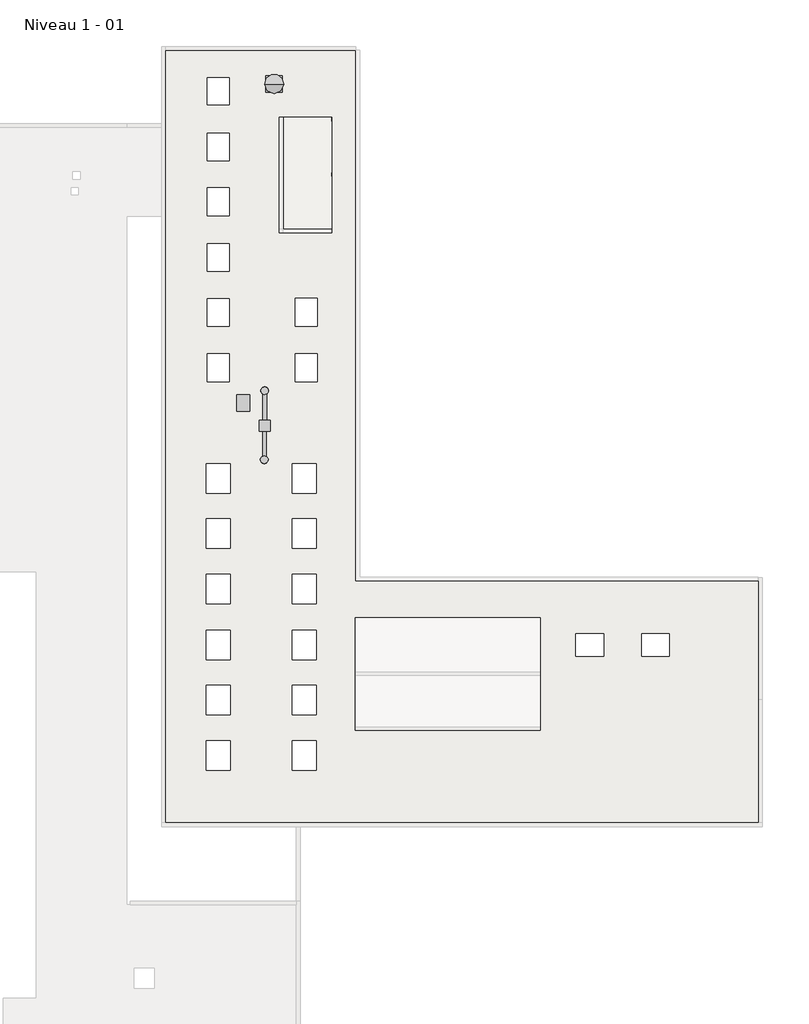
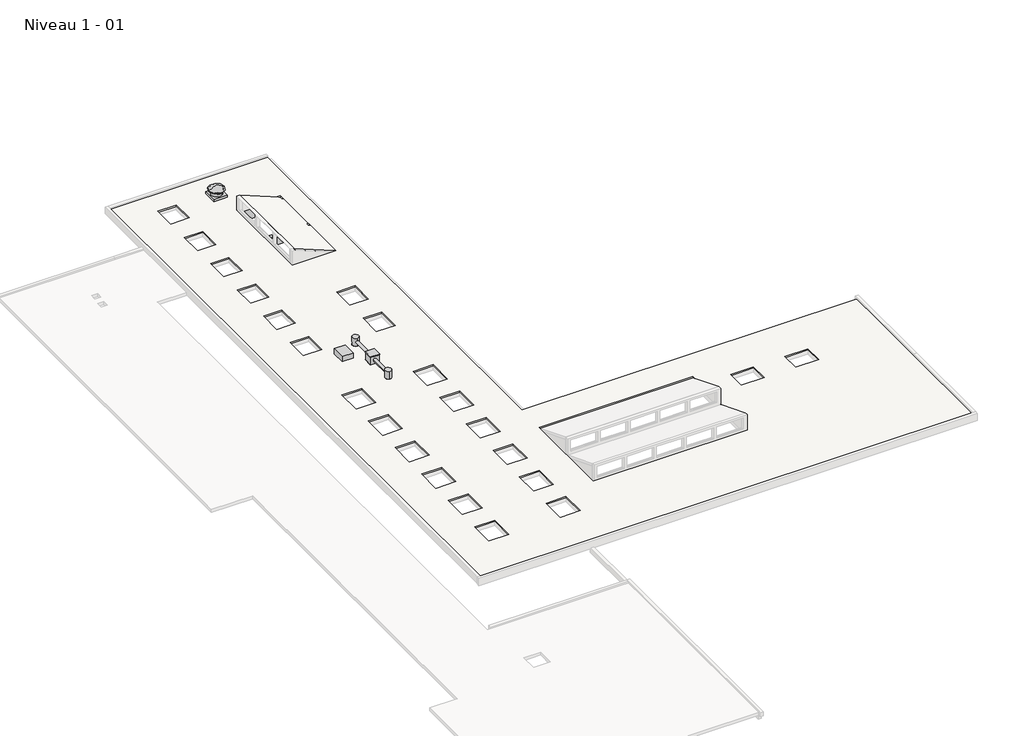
# One storey, part 3 of 3: 9 beams, 2 proxies, 2 slabs.
"""IFC4 building model written with IfcOpenShell, lengths in millimetres."""

from ifc_helpers import new_model, si_unit, frame, origin, place, context, project, spatial, polyline, circle_curve, outline, extrude, faceted_brep, transform, mapped, element, save
from ifc_brep_helpers import plane_surface, revolved_surface, advanced_brep
from components import conduit_gaz6_79e76099, tube_de_toiture3_tube_de_toiture_959dfdbf

model = new_model("IFC4")

# Units and contexts
model_context = context("Model", 3, world=origin())
ifc_project = project(units=[si_unit("LENGTHUNIT", "METRE", prefix="MILLI")], contexts=[model_context])

# Site, building, storey
site = spatial("IfcSite", under=ifc_project)
building = spatial("IfcBuilding", under=site)
storey = spatial("IfcBuildingStorey", under=building, Name="Niveau 1 - 01", Elevation=3953.3082742)

# Beams
placement = place(None, origin())
element("IfcBeam", 1, ObjectType="M_Béton-Poutre rectangulaire T2 : 20x60h", at=placement, inside=storey, context=model_context, shape_type="SweptSolid", body=[
    extrude(outline(polyline([(3353.3082742, -35918.9891752), (3353.3082742, -6831.0863322), (3703.3082742, -6831.0863322), (3703.3082742, -15997.6697002), (3953.3082742, -15997.6697002), (3953.3082742, -25593.9891728), (3703.3082742, -25593.9891728), (3703.3082742, -35918.9891752), (3353.3082742, -35918.9891752)])), frame((0.0, -26203.571453, 0.0), z_axis=(0.0, 1.0, 0.0), x_axis=(0.0, 0.0, 1.0)), (0.0, 0.0, 1.0), 200.0),
])
element("IfcBeam", 2, ObjectType="M_Béton-Poutre rectangulaire T2 : 20x60h", at=placement, inside=storey, context=model_context, shape_type="Brep", body=[
    faceted_brep([(-9997.5797303, -29287.792702, 3353.3082742), (-9997.5797303, -29087.792702, 3353.3082742), (-9997.5797303, -29087.792702, 3703.3082742), (-9997.5797303, -29287.792702, 3703.3082742), (-35918.9891751, -29087.792702, 3353.3082742), (-35918.9891751, -29287.792702, 3353.3082742), (-35918.9891751, -29287.792702, 3703.3082742), (-35918.9891751, -29087.792702, 3703.3082742), (-15997.6697002, -29087.792702, 3953.3082742), (-25593.9891728, -29087.792702, 3953.3082742), (-25593.9891728, -29088.571453, 3953.3082742), (-15997.6697002, -29088.571453, 3953.3082742), (-25593.9891728, -29087.792702, 3703.3082742), (-15997.6697002, -29087.792702, 3703.3082742), (-15997.6697002, -29088.571453, 3703.3082742), (-25593.9891728, -29088.571453, 3703.3082742)], [[[0, 1, 2, 3]], [[4, 5, 6, 7]], [[8, 9, 10, 11]], [[5, 0, 3, 6]], [[1, 0, 5, 4]], [[1, 4, 7, 12, 9, 8, 13, 2]], [[14, 15, 12, 7, 6, 3, 2, 13]], [[11, 14, 13, 8]], [[15, 10, 9, 12]], [[15, 14, 11, 10]]]),
])
element("IfcBeam", 3, ObjectType="M_Béton-Poutre rectangulaire T2 : 20x60h", at=placement, inside=storey, context=model_context, shape_type="SweptSolid", body=[
    extrude(outline(polyline([(-9997.5797303, -32028.571453), (-9997.5797303, -32228.571453), (-35918.989175, -32228.571453), (-35918.989175, -32028.571453), (-9997.5797303, -32028.571453)])), frame((0.0, 0.0, 3353.3082742), z_axis=(0.0, 0.0, 1.0), x_axis=(1.0, 0.0, 0.0)), (0.0, 0.0, 1.0), 350.0),
])
element("IfcBeam", 4, ObjectType="M_Béton-Poutre rectangulaire T2 : 20x65h", at=placement, inside=storey, context=model_context, shape_type="SweptSolid", body=[
    extrude(outline(polyline([(-6831.0863322, -23008.571453), (-6831.0863322, -23208.571453), (-35918.9891752, -23208.571453), (-35918.9891752, -23008.571453), (-6831.0863322, -23008.571453)])), frame((0.0, 0.0, 3303.3082742), z_axis=(0.0, 0.0, 1.0), x_axis=(1.0, 0.0, 0.0)), (0.0, 0.0, 1.0), 400.0),
])
element("IfcBeam", 5, ObjectType="M_Béton-Poutre rectangulaire T2 : 20x65h", at=placement, inside=storey, context=model_context, shape_type="SweptSolid", body=[
    extrude(outline(polyline([(-25843.9891729, -20008.571453), (-25843.9891729, -20208.571453), (-35918.9891752, -20208.571453), (-35918.9891752, -20008.571453), (-25843.9891729, -20008.571453)])), frame((0.0, 0.0, 3303.3082742), z_axis=(0.0, 0.0, 1.0), x_axis=(1.0, 0.0, 0.0)), (0.0, 0.0, 1.0), 400.0),
])
element("IfcBeam", 6, ObjectType="M_Béton-Poutre rectangulaire T2 : 20x65h", at=placement, inside=storey, context=model_context, shape_type="SweptSolid", body=[
    extrude(outline(polyline([(-25843.9891729, -17003.571453), (-25843.9891729, -17203.571453), (-35918.9891752, -17203.571453), (-35918.9891752, -17003.571453), (-25843.9891729, -17003.571453)])), frame((0.0, 0.0, 3303.3082742), z_axis=(0.0, 0.0, 1.0), x_axis=(1.0, 0.0, 0.0)), (0.0, 0.0, 1.0), 400.0),
])
element("IfcBeam", 7, ObjectType="M_Béton-Poutre rectangulaire T2 : 20x65h", at=placement, inside=storey, context=model_context, shape_type="Brep", body=[
    faceted_brep([(-25843.9891729, -2292.822974, 3303.3082742), (-25843.9891729, -2092.822974, 3303.3082742), (-25843.9891729, -2092.822974, 3703.3082742), (-25843.9891729, -2292.822974, 3703.3082742), (-35918.9891752, -2092.822974, 3303.3082742), (-35918.9891752, -2292.822974, 3303.3082742), (-35918.9891752, -2292.822974, 3703.3082742), (-35918.9891752, -2092.822974, 3703.3082742), (-29743.5797272, -2092.822974, 3703.3082742), (-26893.5797272, -2092.822974, 3703.3082742)], [[[0, 1, 2, 3]], [[4, 5, 6, 7]], [[5, 0, 3, 6]], [[1, 0, 5, 4]], [[1, 4, 7, 8, 9, 2]], [[3, 2, 9, 8, 7, 6]]]),
])
element("IfcBeam", 8, ObjectType="M_Béton-Poutre rectangulaire T2 : 20x65h", at=placement, inside=storey, context=model_context, shape_type="SweptSolid", body=[
    extrude(outline(polyline([(3303.3082742, -35918.9891752), (3303.3082742, -25843.9891729), (3703.3082742, -25843.9891729), (3703.3082742, -26893.5797272), (3953.3082742, -26893.5797272), (3953.3082742, -29743.5797272), (3703.3082742, -29743.5797272), (3703.3082742, -35918.9891752), (3303.3082742, -35918.9891752)])), frame((0.0, 777.177026, 0.0), z_axis=(0.0, 1.0, 0.0), x_axis=(0.0, 0.0, 1.0)), (0.0, 0.0, 1.0), 200.0),
])
element("IfcBeam", 9, ObjectType="M_Béton-Poutre rectangulaire T2 : 30x65h", at=placement, inside=storey, context=model_context, shape_type="Brep", body=[
    faceted_brep([(-25843.9891729, 3777.177026, 3303.3082742), (-25843.9891729, 4077.177026, 3303.3082742), (-25843.9891729, 4077.177026, 3703.3082742), (-25843.9891729, 3777.177026, 3703.3082742), (-35918.9891752, 4077.177026, 3303.3082742), (-35918.9891752, 3777.177026, 3303.3082742), (-35918.9891752, 3777.177026, 3703.3082742), (-35918.9891752, 4077.177026, 3703.3082742), (-29743.5797272, 3777.177026, 3953.3082742), (-26893.5797272, 3777.177026, 3953.3082742), (-26893.5797272, 3782.177026, 3953.3082742), (-29743.5797272, 3782.177026, 3953.3082742), (-26893.5797272, 3777.177026, 3703.3082742), (-29743.5797272, 3777.177026, 3703.3082742), (-29743.5797272, 3782.177026, 3703.3082742), (-26893.5797272, 3782.177026, 3703.3082742)], [[[0, 1, 2, 3]], [[4, 5, 6, 7]], [[8, 9, 10, 11]], [[5, 0, 3, 12, 9, 8, 13, 6]], [[1, 0, 5, 4]], [[1, 4, 7, 2]], [[14, 15, 12, 3, 2, 7, 6, 13]], [[15, 14, 11, 10]], [[11, 14, 13, 8]], [[15, 10, 9, 12]]]),
])

# Proxies
conduit_gaz6_shape = conduit_gaz6_79e76099(model_context)
element("IfcBuildingElementProxy", 10, Name="Conduit Gaz6 : Conduit Gaz", ObjectType="Conduit Gaz6 : Conduit Gaz", at=placement, inside=storey, context=model_context, shape_type="MappedRepresentation", body=[
    mapped(conduit_gaz6_shape, transform((0.0, 0.0, 0.0), x_axis=(1.0, 0.0, 0.0), y_axis=(0.0, 1.0, 0.0), z_axis=(0.0, 0.0, 1.0))),
])
tube_de_toiture3_tube_de_toiture_shape = tube_de_toiture3_tube_de_toiture_959dfdbf(model_context)
element("IfcBuildingElementProxy", 11, Name="Tube de toiture3 : Tube de toiture", ObjectType="Tube de toiture3 : Tube de toiture", at=placement, inside=storey, context=model_context, shape_type="MappedRepresentation", body=[
    mapped(tube_de_toiture3_tube_de_toiture_shape, transform((0.0, 0.0, 0.0), x_axis=(1.0, 0.0, 0.0), y_axis=(0.0, 1.0, 0.0), z_axis=(0.0, 0.0, 1.0))),
])

# Slabs
element("IfcSlab", 12, ObjectType="étanchéité terrasse 100mm", at=placement, inside=storey, context=model_context, shape_type="AdvancedBrep", body=[
    advanced_brep(
    [(-25843.9891731, 7622.6789506, 3953.3082742), (-25843.9891731, -21206.25307, 3953.3082742), (-3963.9891777, -21206.25307, 3953.3082742), (-3945.9483345, -21206.25307, 3953.3082742), (-3945.9483345, -34309.054307, 3953.3082742), (-3952.669714, -34309.054307, 3953.3082742), (-36143.9891745, -34309.054307, 3953.3082742), (-36143.9891745, 7622.6789506, 3953.3082742), (-25843.9891731, -23168.571453, 3953.3082742), (-25843.9891731, -29288.571453, 3953.3082742), (-15797.6697002, -29288.571453, 3953.3082742), (-15797.6697002, -23578.2235942, 3953.3082742), (-15797.6697002, -23177.8035198, 3953.3082742), (-15797.6697002, -23168.571453, 3953.3082742), (-25793.9891728, -23168.571453, 3953.3082742), (-33869.0462334, 4671.7111666, 3953.3082742), (-32669.0462334, 4671.7111666, 3953.3082742), (-32669.0462334, 6121.7111666, 3953.3082742), (-33869.0462334, 6121.7111666, 3953.3082742), (-33869.0462334, 3122.177026, 3953.3082742), (-33869.0462334, 1622.177026, 3953.3082742), (-32669.0462334, 1622.177026, 3953.3082742), (-32669.0462334, 3122.177026, 3953.3082742), (-32669.0462334, -1347.3571147, 3953.3082742), (-32669.0462334, 152.6428853, 3953.3082742), (-33869.0462334, 152.6428853, 3953.3082742), (-33869.0462334, -1347.3571147, 3953.3082742), (-32669.0462334, -4376.8912553, 3953.3082742), (-32669.0462334, -2876.8912553, 3953.3082742), (-33869.0462334, -2876.8912553, 3953.3082742), (-33869.0462334, -4376.8912553, 3953.3082742), (-33869.0462334, -5852.822974, 3953.3082742), (-33869.0462334, -7352.822974, 3953.3082742), (-32669.0462334, -7352.822974, 3953.3082742), (-32669.0462334, -5852.822974, 3953.3082742), (-32669.0462334, -10357.822974, 3953.3082742), (-32669.0462334, -8857.822974, 3953.3082742), (-33869.0462334, -8857.822974, 3953.3082742), (-33869.0462334, -10357.822974, 3953.3082742), (-12351.5513349, -24053.822974, 3953.3082742), (-13851.5513349, -24053.822974, 3953.3082742), (-13851.5513349, -25253.822974, 3953.3082742), (-12351.5513349, -25253.822974, 3953.3082742), (-8792.5797272, -24053.822974, 3953.3082742), (-10292.5797272, -24053.822974, 3953.3082742), (-10292.5797272, -25253.822974, 3953.3082742), (-8792.5797272, -25253.822974, 3953.3082742), (-26893.5797272, 3982.177026, 3953.3082742), (-29943.5797272, 3982.177026, 3953.3082742), (-29943.5797272, -2292.822974, 3953.3082742), (-26893.5797272, -2292.822974, 3953.3082742), (-26893.5797272, -2092.822974, 3953.3082742), (-26893.5797272, 3782.177026, 3953.3082742), (-33919.0462334, -16407.822974, 3953.3082742), (-32619.0462334, -16407.822974, 3953.3082742), (-32619.0462334, -14807.822974, 3953.3082742), (-33919.0462334, -14807.822974, 3953.3082742), (-33919.0462334, -19407.822974, 3953.3082742), (-32619.0462334, -19407.822974, 3953.3082742), (-32619.0462334, -17807.822974, 3953.3082742), (-33919.0462334, -17807.822974, 3953.3082742), (-33919.0462334, -22427.822974, 3953.3082742), (-32619.0462334, -22427.822974, 3953.3082742), (-32619.0462334, -20827.822974, 3953.3082742), (-33919.0462334, -20827.822974, 3953.3082742), (-32619.0462334, -25447.822974, 3953.3082742), (-32619.0462334, -23847.822974, 3953.3082742), (-33919.0462334, -23847.822974, 3953.3082742), (-33919.0462334, -25447.822974, 3953.3082742), (-33919.0462334, -28437.822974, 3953.3082742), (-32619.0462334, -28437.822974, 3953.3082742), (-32619.0462334, -26837.822974, 3953.3082742), (-33919.0462334, -26837.822974, 3953.3082742), (-33919.0462334, -31447.822974, 3953.3082742), (-32619.0462334, -31447.822974, 3953.3082742), (-32619.0462334, -29847.822974, 3953.3082742), (-33919.0462334, -29847.822974, 3953.3082742), (-29260.9246741, -16407.822974, 3953.3082742), (-27960.9246741, -16407.822974, 3953.3082742), (-27960.9246741, -14807.822974, 3953.3082742), (-29260.9246741, -14807.822974, 3953.3082742), (-27960.9246741, -17807.822974, 3953.3082742), (-29260.9246741, -17807.822974, 3953.3082742), (-29260.9246741, -19407.822974, 3953.3082742), (-27960.9246741, -19407.822974, 3953.3082742), (-29260.9246741, -22427.822974, 3953.3082742), (-27960.9246741, -22427.822974, 3953.3082742), (-27960.9246741, -20827.822974, 3953.3082742), (-29260.9246741, -20827.822974, 3953.3082742), (-29260.9246741, -25447.822974, 3953.3082742), (-27960.9246741, -25447.822974, 3953.3082742), (-27960.9246741, -23847.822974, 3953.3082742), (-29260.9246741, -23847.822974, 3953.3082742), (-27960.9246741, -26837.822974, 3953.3082742), (-29260.9246741, -26837.822974, 3953.3082742), (-29260.9246741, -28437.822974, 3953.3082742), (-27960.9246741, -28437.822974, 3953.3082742), (-29260.9246741, -31447.822974, 3953.3082742), (-27960.9246741, -31447.822974, 3953.3082742), (-27960.9246741, -29847.822974, 3953.3082742), (-29260.9246741, -29847.822974, 3953.3082742), (-29098.4246741, -7360.322974, 3953.3082742), (-27883.4246741, -7360.322974, 3953.3082742), (-27883.4246741, -5845.322974, 3953.3082742), (-29098.4246741, -5845.322974, 3953.3082742), (-29098.4246741, -10365.322974, 3953.3082742), (-27883.4246741, -10365.322974, 3953.3082742), (-27883.4246741, -8850.322974, 3953.3082742), (-29098.4246741, -8850.322974, 3953.3082742), (-30507.5797272, 5770.177026, 3953.3082742), (-29907.5797272, 5770.177026, 3953.3082742), (-32268.9891696, -11074.5661034, 3953.3082742), (-32268.9891696, -11979.0543063, 3953.3082742), (-31556.3128908, -11979.0543063, 3953.3082742), (-31556.3128908, -11074.5661034, 3953.3082742), (-31036.1289842, -12447.5222495, 3953.3082742), (-31036.1289842, -13047.5222494, 3953.3082742), (-30446.1289842, -13047.5222494, 3953.3082742), (-30446.1289842, -12447.5222495, 3953.3082742), (-30958.5797272, -10853.822974, 3953.3082742), (-30538.5797272, -10853.822974, 3953.3082742), (-30977.5797272, -14595.822974, 3953.3082742), (-30557.5797272, -14595.822974, 3953.3082742), (-25843.9891731, -21206.25307, 4053.3082742), (-25843.9891731, 7622.6789506, 4053.3082742), (-36143.9891745, 7622.6789506, 4053.3082742), (-36143.9891745, -34309.054307, 4053.3082742), (-3945.9483345, -34309.054307, 4053.3082742), (-3945.9483345, -21206.25307, 4053.3082742), (-25843.9891731, -29288.571453, 4053.3082742), (-25843.9891731, -23168.571453, 4053.3082742), (-15797.6697002, -23168.571453, 4053.3082742), (-15797.6697002, -29288.571453, 4053.3082742), (-32669.0462334, 4671.7111666, 4053.3082742), (-33869.0462334, 4671.7111666, 4053.3082742), (-33869.0462334, 6121.7111666, 4053.3082742), (-32669.0462334, 6121.7111666, 4053.3082742), (-33869.0462334, 1622.177026, 4053.3082742), (-33869.0462334, 3122.177026, 4053.3082742), (-32669.0462334, 3122.177026, 4053.3082742), (-32669.0462334, 1622.177026, 4053.3082742), (-32669.0462334, 152.6428853, 4053.3082742), (-32669.0462334, -1347.3571147, 4053.3082742), (-33869.0462334, -1347.3571147, 4053.3082742), (-33869.0462334, 152.6428853, 4053.3082742), (-32669.0462334, -2876.8912553, 4053.3082742), (-32669.0462334, -4376.8912553, 4053.3082742), (-33869.0462334, -4376.8912553, 4053.3082742), (-33869.0462334, -2876.8912553, 4053.3082742), (-33869.0462334, -7352.822974, 4053.3082742), (-33869.0462334, -5852.822974, 4053.3082742), (-32669.0462334, -5852.822974, 4053.3082742), (-32669.0462334, -7352.822974, 4053.3082742), (-32669.0462334, -8857.822974, 4053.3082742), (-32669.0462334, -10357.822974, 4053.3082742), (-33869.0462334, -10357.822974, 4053.3082742), (-33869.0462334, -8857.822974, 4053.3082742), (-13851.5513349, -24053.822974, 4053.3082742), (-12351.5513349, -24053.822974, 4053.3082742), (-12351.5513349, -25253.822974, 4053.3082742), (-13851.5513349, -25253.822974, 4053.3082742), (-10292.5797272, -24053.822974, 4053.3082742), (-8792.5797272, -24053.822974, 4053.3082742), (-8792.5797272, -25253.822974, 4053.3082742), (-10292.5797272, -25253.822974, 4053.3082742), (-27100.3841855, -2292.822974, 4053.3082742), (-29943.5797272, -2292.822974, 4053.3082742), (-29943.5797272, 3982.177026, 4053.3082742), (-27100.3841855, 3982.177026, 4053.3082742), (-32619.0462334, -16407.822974, 4053.3082742), (-33919.0462334, -16407.822974, 4053.3082742), (-33919.0462334, -14807.822974, 4053.3082742), (-32619.0462334, -14807.822974, 4053.3082742), (-32619.0462334, -19407.822974, 4053.3082742), (-33919.0462334, -19407.822974, 4053.3082742), (-33919.0462334, -17807.822974, 4053.3082742), (-32619.0462334, -17807.822974, 4053.3082742), (-32619.0462334, -22427.822974, 4053.3082742), (-33919.0462334, -22427.822974, 4053.3082742), (-33919.0462334, -20827.822974, 4053.3082742), (-32619.0462334, -20827.822974, 4053.3082742), (-32619.0462334, -23847.822974, 4053.3082742), (-32619.0462334, -25447.822974, 4053.3082742), (-33919.0462334, -25447.822974, 4053.3082742), (-33919.0462334, -23847.822974, 4053.3082742), (-32619.0462334, -28437.822974, 4053.3082742), (-33919.0462334, -28437.822974, 4053.3082742), (-33919.0462334, -26837.822974, 4053.3082742), (-32619.0462334, -26837.822974, 4053.3082742), (-32619.0462334, -31447.822974, 4053.3082742), (-33919.0462334, -31447.822974, 4053.3082742), (-33919.0462334, -29847.822974, 4053.3082742), (-32619.0462334, -29847.822974, 4053.3082742), (-27960.9246741, -16407.822974, 4053.3082742), (-29260.9246741, -16407.822974, 4053.3082742), (-29260.9246741, -14807.822974, 4053.3082742), (-27960.9246741, -14807.822974, 4053.3082742), (-29260.9246741, -17807.822974, 4053.3082742), (-27960.9246741, -17807.822974, 4053.3082742), (-27960.9246741, -19407.822974, 4053.3082742), (-29260.9246741, -19407.822974, 4053.3082742), (-27960.9246741, -22427.822974, 4053.3082742), (-29260.9246741, -22427.822974, 4053.3082742), (-29260.9246741, -20827.822974, 4053.3082742), (-27960.9246741, -20827.822974, 4053.3082742), (-27960.9246741, -25447.822974, 4053.3082742), (-29260.9246741, -25447.822974, 4053.3082742), (-29260.9246741, -23847.822974, 4053.3082742), (-27960.9246741, -23847.822974, 4053.3082742), (-29260.9246741, -26837.822974, 4053.3082742), (-27960.9246741, -26837.822974, 4053.3082742), (-27960.9246741, -28437.822974, 4053.3082742), (-29260.9246741, -28437.822974, 4053.3082742), (-27960.9246741, -31447.822974, 4053.3082742), (-29260.9246741, -31447.822974, 4053.3082742), (-29260.9246741, -29847.822974, 4053.3082742), (-27960.9246741, -29847.822974, 4053.3082742), (-27883.4246741, -7360.322974, 4053.3082742), (-29098.4246741, -7360.322974, 4053.3082742), (-29098.4246741, -5845.322974, 4053.3082742), (-27883.4246741, -5845.322974, 4053.3082742), (-27883.4246741, -10365.322974, 4053.3082742), (-29098.4246741, -10365.322974, 4053.3082742), (-29098.4246741, -8850.322974, 4053.3082742), (-27883.4246741, -8850.322974, 4053.3082742), (-29907.5797272, 5770.177026, 4053.3082742), (-30507.5797272, 5770.177026, 4053.3082742), (-32268.9891696, -11979.0543063, 4053.3082742), (-32268.9891696, -11074.5661034, 4053.3082742), (-31556.3128908, -11074.5661034, 4053.3082742), (-31556.3128908, -11979.0543063, 4053.3082742), (-31036.1289842, -13047.5222494, 4053.3082742), (-31036.1289842, -12447.5222495, 4053.3082742), (-30446.1289842, -12447.5222495, 4053.3082742), (-30446.1289842, -13047.5222494, 4053.3082742), (-30538.5797272, -10853.822974, 4053.3082742), (-30958.5797272, -10853.822974, 4053.3082742), (-30557.5797272, -14595.822974, 4053.3082742), (-30977.5797272, -14595.822974, 4053.3082742), (-26893.5797272, -2292.822974, 3969.7538495), (-26893.5797272, 3982.177026, 3969.7538495)],
    [
        (0, 1),
        (1, 2),
        (2, 3),
        (3, 4),
        (4, 5),
        (5, 6),
        (6, 7),
        (7, 0),
        (8, 9),
        (9, 10),
        (10, 11),
        (11, 12),
        (12, 13),
        (13, 14),
        (14, 8),
        (15, 16),
        (16, 17),
        (17, 18),
        (18, 15),
        (19, 20),
        (20, 21),
        (21, 22),
        (22, 19),
        (23, 24),
        (24, 25),
        (25, 26),
        (26, 23),
        (27, 28),
        (28, 29),
        (29, 30),
        (30, 27),
        (31, 32),
        (32, 33),
        (33, 34),
        (34, 31),
        (35, 36),
        (36, 37),
        (37, 38),
        (38, 35),
        (39, 40),
        (40, 41),
        (41, 42),
        (42, 39),
        (43, 44),
        (44, 45),
        (45, 46),
        (46, 43),
        (47, 48),
        (48, 49),
        (49, 50),
        (50, 51),
        (51, 52),
        (52, 47),
        (53, 54),
        (54, 55),
        (55, 56),
        (56, 53),
        (57, 58),
        (58, 59),
        (59, 60),
        (60, 57),
        (61, 62),
        (62, 63),
        (63, 64),
        (64, 61),
        (65, 66),
        (66, 67),
        (67, 68),
        (68, 65),
        (69, 70),
        (70, 71),
        (71, 72),
        (72, 69),
        (73, 74),
        (74, 75),
        (75, 76),
        (76, 73),
        (77, 78),
        (78, 79),
        (79, 80),
        (80, 77),
        (81, 82),
        (82, 83),
        (83, 84),
        (84, 81),
        (85, 86),
        (86, 87),
        (87, 88),
        (88, 85),
        (89, 90),
        (90, 91),
        (91, 92),
        (92, 89),
        (93, 94),
        (94, 95),
        (95, 96),
        (96, 93),
        (97, 98),
        (98, 99),
        (99, 100),
        (100, 97),
        (101, 102),
        (102, 103),
        (103, 104),
        (104, 101),
        (105, 106),
        (106, 107),
        (107, 108),
        (108, 105),
        (109, 110, circle_curve(frame((-30207.5797272, 5770.177026, 3953.3082742), z_axis=(0.0, 0.0, 1.0), x_axis=(1.0, 0.0, 0.0)), 300.0)),
        (110, 109, circle_curve(frame((-30207.5797272, 5770.177026, 3953.3082742), z_axis=(0.0, 0.0, 1.0), x_axis=(1.0, 0.0, 0.0)), 300.0)),
        (111, 112),
        (112, 113),
        (113, 114),
        (114, 111),
        (115, 116),
        (116, 117),
        (117, 118),
        (118, 115),
        (119, 120, circle_curve(frame((-30748.5797272, -10853.822974, 3953.3082742), z_axis=(0.0, 0.0, 1.0), x_axis=(1.0, 0.0, 0.0)), 210.0)),
        (120, 119, circle_curve(frame((-30748.5797272, -10853.822974, 3953.3082742), z_axis=(0.0, 0.0, 1.0), x_axis=(1.0, 0.0, 0.0)), 210.0)),
        (121, 122, circle_curve(frame((-30767.5797272, -14595.822974, 3953.3082742), z_axis=(0.0, 0.0, 1.0), x_axis=(1.0, 0.0, 0.0)), 210.0)),
        (122, 121, circle_curve(frame((-30767.5797272, -14595.822974, 3953.3082742), z_axis=(0.0, 0.0, 1.0), x_axis=(1.0, 0.0, 0.0)), 210.0)),
        (123, 124),
        (124, 125),
        (125, 126),
        (126, 127),
        (127, 128),
        (128, 123),
        (129, 130),
        (130, 131),
        (131, 132),
        (132, 129),
        (133, 134),
        (134, 135),
        (135, 136),
        (136, 133),
        (137, 138),
        (138, 139),
        (139, 140),
        (140, 137),
        (141, 142),
        (142, 143),
        (143, 144),
        (144, 141),
        (145, 146),
        (146, 147),
        (147, 148),
        (148, 145),
        (149, 150),
        (150, 151),
        (151, 152),
        (152, 149),
        (153, 154),
        (154, 155),
        (155, 156),
        (156, 153),
        (157, 158),
        (158, 159),
        (159, 160),
        (160, 157),
        (161, 162),
        (162, 163),
        (163, 164),
        (164, 161),
        (165, 166),
        (166, 167),
        (167, 168),
        (168, 165),
        (169, 170),
        (170, 171),
        (171, 172),
        (172, 169),
        (173, 174),
        (174, 175),
        (175, 176),
        (176, 173),
        (177, 178),
        (178, 179),
        (179, 180),
        (180, 177),
        (181, 182),
        (182, 183),
        (183, 184),
        (184, 181),
        (185, 186),
        (186, 187),
        (187, 188),
        (188, 185),
        (189, 190),
        (190, 191),
        (191, 192),
        (192, 189),
        (193, 194),
        (194, 195),
        (195, 196),
        (196, 193),
        (197, 198),
        (198, 199),
        (199, 200),
        (200, 197),
        (201, 202),
        (202, 203),
        (203, 204),
        (204, 201),
        (205, 206),
        (206, 207),
        (207, 208),
        (208, 205),
        (209, 210),
        (210, 211),
        (211, 212),
        (212, 209),
        (213, 214),
        (214, 215),
        (215, 216),
        (216, 213),
        (217, 218),
        (218, 219),
        (219, 220),
        (220, 217),
        (221, 222),
        (222, 223),
        (223, 224),
        (224, 221),
        (225, 226, circle_curve(frame((-30207.5797272, 5770.177026, 4053.3082742), z_axis=(0.0, 0.0, -1.0), x_axis=(1.0, 0.0, 0.0)), 300.0)),
        (226, 225, circle_curve(frame((-30207.5797272, 5770.177026, 4053.3082742), z_axis=(0.0, 0.0, -1.0), x_axis=(1.0, 0.0, 0.0)), 300.0)),
        (227, 228),
        (228, 229),
        (229, 230),
        (230, 227),
        (231, 232),
        (232, 233),
        (233, 234),
        (234, 231),
        (235, 236, circle_curve(frame((-30748.5797272, -10853.822974, 4053.3082742), z_axis=(0.0, 0.0, -1.0), x_axis=(1.0, 0.0, 0.0)), 210.0)),
        (236, 235, circle_curve(frame((-30748.5797272, -10853.822974, 4053.3082742), z_axis=(0.0, 0.0, -1.0), x_axis=(1.0, 0.0, 0.0)), 210.0)),
        (237, 238, circle_curve(frame((-30767.5797272, -14595.822974, 4053.3082742), z_axis=(0.0, 0.0, -1.0), x_axis=(1.0, 0.0, 0.0)), 210.0)),
        (238, 237, circle_curve(frame((-30767.5797272, -14595.822974, 4053.3082742), z_axis=(0.0, 0.0, -1.0), x_axis=(1.0, 0.0, 0.0)), 210.0)),
        (0, 124),
        (123, 1),
        (128, 3),
        (8, 130),
        (129, 9),
        (132, 10),
        (131, 13),
        (15, 134),
        (133, 16),
        (136, 17),
        (135, 18),
        (19, 138),
        (137, 20),
        (140, 21),
        (139, 22),
        (23, 142),
        (141, 24),
        (144, 25),
        (143, 26),
        (27, 146),
        (145, 28),
        (148, 29),
        (147, 30),
        (31, 150),
        (149, 32),
        (152, 33),
        (151, 34),
        (35, 154),
        (153, 36),
        (156, 37),
        (155, 38),
        (39, 158),
        (157, 40),
        (160, 41),
        (159, 42),
        (43, 162),
        (161, 44),
        (164, 45),
        (163, 46),
        (48, 167),
        (166, 49),
        (165, 239),
        (239, 50),
        (47, 240),
        (240, 168),
        (240, 239),
        (53, 170),
        (169, 54),
        (172, 55),
        (171, 56),
        (57, 174),
        (173, 58),
        (176, 59),
        (175, 60),
        (61, 178),
        (177, 62),
        (180, 63),
        (179, 64),
        (65, 182),
        (181, 66),
        (184, 67),
        (183, 68),
        (69, 186),
        (185, 70),
        (188, 71),
        (187, 72),
        (73, 190),
        (189, 74),
        (192, 75),
        (191, 76),
        (77, 194),
        (193, 78),
        (196, 79),
        (195, 80),
        (81, 198),
        (197, 82),
        (200, 83),
        (199, 84),
        (85, 202),
        (201, 86),
        (204, 87),
        (203, 88),
        (89, 206),
        (205, 90),
        (208, 91),
        (207, 92),
        (93, 210),
        (209, 94),
        (212, 95),
        (211, 96),
        (97, 214),
        (213, 98),
        (216, 99),
        (215, 100),
        (101, 218),
        (217, 102),
        (220, 103),
        (219, 104),
        (105, 222),
        (221, 106),
        (224, 107),
        (223, 108),
        (109, 226),
        (225, 110),
        (111, 228),
        (227, 112),
        (230, 113),
        (229, 114),
        (115, 232),
        (231, 116),
        (234, 117),
        (233, 118),
        (119, 236),
        (235, 120),
        (121, 238),
        (237, 122),
        (127, 4),
        (126, 6),
        (125, 7),
    ],
    [
        plane_surface(frame((-25803.9891757, -21206.25307, 3953.3082742), z_axis=(0.0, 0.0, -1.0), x_axis=(1.0, 0.0, 0.0))),
        plane_surface(frame((-25803.9891757, -21206.25307, 4053.3082742), z_axis=(0.0, 0.0, 1.0), x_axis=(-1.0, 0.0, 0.0))),
        plane_surface(frame((-25843.9891731, 7622.6789506, 3953.3082742), z_axis=(1.0, 0.0, 0.0), x_axis=(0.0, 0.0, 1.0))),
        plane_surface(frame((-25843.9891731, -21206.25307, 3953.3082742), z_axis=(0.0, 1.0, 0.0), x_axis=(0.0, 0.0, 1.0))),
        plane_surface(frame((-25843.9891731, -23168.571453, 3953.3082742), z_axis=(1.0, 0.0, 0.0), x_axis=(0.0, 0.0, 1.0))),
        plane_surface(frame((-25843.9891731, -29288.571453, 3953.3082742), z_axis=(0.0, 1.0, 0.0), x_axis=(0.0, 0.0, 1.0))),
        plane_surface(frame((-15797.6697002, -29288.571453, 3953.3082742), z_axis=(-1.0, 0.0, 0.0), x_axis=(0.0, 0.0, 1.0))),
        plane_surface(frame((-15797.6697002, -23168.571453, 3953.3082742), z_axis=(0.0, -1.0, 0.0), x_axis=(0.0, 0.0, 1.0))),
        plane_surface(frame((-33869.0462334, 4671.7111666, 3953.3082742), z_axis=(0.0, 1.0, 0.0), x_axis=(0.0, 0.0, 1.0))),
        plane_surface(frame((-32669.0462334, 4671.7111666, 3953.3082742), z_axis=(-1.0, 0.0, 0.0), x_axis=(0.0, 0.0, 1.0))),
        plane_surface(frame((-32669.0462334, 6121.7111666, 3953.3082742), z_axis=(0.0, -1.0, 0.0), x_axis=(0.0, 0.0, 1.0))),
        plane_surface(frame((-33869.0462334, 6121.7111666, 3953.3082742), z_axis=(1.0, 0.0, 0.0), x_axis=(0.0, 0.0, 1.0))),
        plane_surface(frame((-33869.0462334, 3122.177026, 3953.3082742), z_axis=(1.0, 0.0, 0.0), x_axis=(0.0, 0.0, 1.0))),
        plane_surface(frame((-33869.0462334, 1622.177026, 3953.3082742), z_axis=(0.0, 1.0, 0.0), x_axis=(0.0, 0.0, 1.0))),
        plane_surface(frame((-32669.0462334, 1622.177026, 3953.3082742), z_axis=(-1.0, 0.0, 0.0), x_axis=(0.0, 0.0, 1.0))),
        plane_surface(frame((-32669.0462334, 3122.177026, 3953.3082742), z_axis=(0.0, -1.0, 0.0), x_axis=(0.0, 0.0, 1.0))),
        plane_surface(frame((-32669.0462334, -1347.3571147, 3953.3082742), z_axis=(-1.0, 0.0, 0.0), x_axis=(0.0, 0.0, 1.0))),
        plane_surface(frame((-32669.0462334, 152.6428853, 3953.3082742), z_axis=(0.0, -1.0, 0.0), x_axis=(0.0, 0.0, 1.0))),
        plane_surface(frame((-33869.0462334, 152.6428853, 3953.3082742), z_axis=(1.0, 0.0, 0.0), x_axis=(0.0, 0.0, 1.0))),
        plane_surface(frame((-33869.0462334, -1347.3571147, 3953.3082742), z_axis=(0.0, 1.0, 0.0), x_axis=(0.0, 0.0, 1.0))),
        plane_surface(frame((-32669.0462334, -4376.8912553, 3953.3082742), z_axis=(-1.0, 0.0, 0.0), x_axis=(0.0, 0.0, 1.0))),
        plane_surface(frame((-32669.0462334, -2876.8912553, 3953.3082742), z_axis=(0.0, -1.0, 0.0), x_axis=(0.0, 0.0, 1.0))),
        plane_surface(frame((-33869.0462334, -2876.8912553, 3953.3082742), z_axis=(1.0, 0.0, 0.0), x_axis=(0.0, 0.0, 1.0))),
        plane_surface(frame((-33869.0462334, -4376.8912553, 3953.3082742), z_axis=(0.0, 1.0, 0.0), x_axis=(0.0, 0.0, 1.0))),
        plane_surface(frame((-33869.0462334, -5852.822974, 3953.3082742), z_axis=(1.0, 0.0, 0.0), x_axis=(0.0, 0.0, 1.0))),
        plane_surface(frame((-33869.0462334, -7352.822974, 3953.3082742), z_axis=(0.0, 1.0, 0.0), x_axis=(0.0, 0.0, 1.0))),
        plane_surface(frame((-32669.0462334, -7352.822974, 3953.3082742), z_axis=(-1.0, 0.0, 0.0), x_axis=(0.0, 0.0, 1.0))),
        plane_surface(frame((-32669.0462334, -5852.822974, 3953.3082742), z_axis=(0.0, -1.0, 0.0), x_axis=(0.0, 0.0, 1.0))),
        plane_surface(frame((-32669.0462334, -10357.822974, 3953.3082742), z_axis=(-1.0, 0.0, 0.0), x_axis=(0.0, 0.0, 1.0))),
        plane_surface(frame((-32669.0462334, -8857.822974, 3953.3082742), z_axis=(0.0, -1.0, 0.0), x_axis=(0.0, 0.0, 1.0))),
        plane_surface(frame((-33869.0462334, -8857.822974, 3953.3082742), z_axis=(1.0, 0.0, 0.0), x_axis=(0.0, 0.0, 1.0))),
        plane_surface(frame((-33869.0462334, -10357.822974, 3953.3082742), z_axis=(0.0, 1.0, 0.0), x_axis=(0.0, 0.0, 1.0))),
        plane_surface(frame((-12351.5513349, -24053.822974, 3953.3082742), z_axis=(0.0, -1.0, 0.0), x_axis=(0.0, 0.0, 1.0))),
        plane_surface(frame((-13851.5513349, -24053.822974, 3953.3082742), z_axis=(1.0, 0.0, 0.0), x_axis=(0.0, 0.0, 1.0))),
        plane_surface(frame((-13851.5513349, -25253.822974, 3953.3082742), z_axis=(0.0, 1.0, 0.0), x_axis=(0.0, 0.0, 1.0))),
        plane_surface(frame((-12351.5513349, -25253.822974, 3953.3082742), z_axis=(-1.0, 0.0, 0.0), x_axis=(0.0, 0.0, 1.0))),
        plane_surface(frame((-8792.5797272, -24053.822974, 3953.3082742), z_axis=(0.0, -1.0, 0.0), x_axis=(0.0, 0.0, 1.0))),
        plane_surface(frame((-10292.5797272, -24053.822974, 3953.3082742), z_axis=(1.0, 0.0, 0.0), x_axis=(0.0, 0.0, 1.0))),
        plane_surface(frame((-10292.5797272, -25253.822974, 3953.3082742), z_axis=(0.0, 1.0, 0.0), x_axis=(0.0, 0.0, 1.0))),
        plane_surface(frame((-8792.5797272, -25253.822974, 3953.3082742), z_axis=(-1.0, 0.0, 0.0), x_axis=(0.0, 0.0, 1.0))),
        plane_surface(frame((-29943.5797272, 3982.177026, 3953.3082742), z_axis=(1.0, 0.0, 0.0), x_axis=(0.0, 0.0, 1.0))),
        plane_surface(frame((-29943.5797272, -2292.822974, 3953.3082742), z_axis=(0.0, 1.0, 0.0), x_axis=(0.0, 0.0, 1.0))),
        plane_surface(frame((-27103.5797272, 3982.177026, 3953.3082742), z_axis=(0.0, -1.0, 0.0), x_axis=(0.0, 0.0, 1.0))),
        plane_surface(frame((-25383.5797272, -1102.0174777, 3359.6742485), z_axis=(-0.3746065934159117, 0.0, -0.9271838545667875), x_axis=(0.9271838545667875, 0.0, -0.3746065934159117))),
        plane_surface(frame((-26893.5797272, 3982.177026, 3861.9003752), z_axis=(-1.0, 0.0, 0.0), x_axis=(0.0, 0.0, 1.0))),
        plane_surface(frame((-33919.0462334, -16407.822974, 3953.3082742), z_axis=(0.0, 1.0, 0.0), x_axis=(0.0, 0.0, 1.0))),
        plane_surface(frame((-32619.0462334, -16407.822974, 3953.3082742), z_axis=(-1.0, 0.0, 0.0), x_axis=(0.0, 0.0, 1.0))),
        plane_surface(frame((-32619.0462334, -14807.822974, 3953.3082742), z_axis=(0.0, -1.0, 0.0), x_axis=(0.0, 0.0, 1.0))),
        plane_surface(frame((-33919.0462334, -14807.822974, 3953.3082742), z_axis=(1.0, 0.0, 0.0), x_axis=(0.0, 0.0, 1.0))),
        plane_surface(frame((-33919.0462334, -19407.822974, 3953.3082742), z_axis=(0.0, 1.0, 0.0), x_axis=(0.0, 0.0, 1.0))),
        plane_surface(frame((-32619.0462334, -19407.822974, 3953.3082742), z_axis=(-1.0, 0.0, 0.0), x_axis=(0.0, 0.0, 1.0))),
        plane_surface(frame((-32619.0462334, -17807.822974, 3953.3082742), z_axis=(0.0, -1.0, 0.0), x_axis=(0.0, 0.0, 1.0))),
        plane_surface(frame((-33919.0462334, -17807.822974, 3953.3082742), z_axis=(1.0, 0.0, 0.0), x_axis=(0.0, 0.0, 1.0))),
        plane_surface(frame((-33919.0462334, -22427.822974, 3953.3082742), z_axis=(0.0, 1.0, 0.0), x_axis=(0.0, 0.0, 1.0))),
        plane_surface(frame((-32619.0462334, -22427.822974, 3953.3082742), z_axis=(-1.0, 0.0, 0.0), x_axis=(0.0, 0.0, 1.0))),
        plane_surface(frame((-32619.0462334, -20827.822974, 3953.3082742), z_axis=(0.0, -1.0, 0.0), x_axis=(0.0, 0.0, 1.0))),
        plane_surface(frame((-33919.0462334, -20827.822974, 3953.3082742), z_axis=(1.0, 0.0, 0.0), x_axis=(0.0, 0.0, 1.0))),
        plane_surface(frame((-32619.0462334, -25447.822974, 3953.3082742), z_axis=(-1.0, 0.0, 0.0), x_axis=(0.0, 0.0, 1.0))),
        plane_surface(frame((-32619.0462334, -23847.822974, 3953.3082742), z_axis=(0.0, -1.0, 0.0), x_axis=(0.0, 0.0, 1.0))),
        plane_surface(frame((-33919.0462334, -23847.822974, 3953.3082742), z_axis=(1.0, 0.0, 0.0), x_axis=(0.0, 0.0, 1.0))),
        plane_surface(frame((-33919.0462334, -25447.822974, 3953.3082742), z_axis=(0.0, 1.0, 0.0), x_axis=(0.0, 0.0, 1.0))),
        plane_surface(frame((-33919.0462334, -28437.822974, 3953.3082742), z_axis=(0.0, 1.0, 0.0), x_axis=(0.0, 0.0, 1.0))),
        plane_surface(frame((-32619.0462334, -28437.822974, 3953.3082742), z_axis=(-1.0, 0.0, 0.0), x_axis=(0.0, 0.0, 1.0))),
        plane_surface(frame((-32619.0462334, -26837.822974, 3953.3082742), z_axis=(0.0, -1.0, 0.0), x_axis=(0.0, 0.0, 1.0))),
        plane_surface(frame((-33919.0462334, -26837.822974, 3953.3082742), z_axis=(1.0, 0.0, 0.0), x_axis=(0.0, 0.0, 1.0))),
        plane_surface(frame((-33919.0462334, -31447.822974, 3953.3082742), z_axis=(0.0, 1.0, 0.0), x_axis=(0.0, 0.0, 1.0))),
        plane_surface(frame((-32619.0462334, -31447.822974, 3953.3082742), z_axis=(-1.0, 0.0, 0.0), x_axis=(0.0, 0.0, 1.0))),
        plane_surface(frame((-32619.0462334, -29847.822974, 3953.3082742), z_axis=(0.0, -1.0, 0.0), x_axis=(0.0, 0.0, 1.0))),
        plane_surface(frame((-33919.0462334, -29847.822974, 3953.3082742), z_axis=(1.0, 0.0, 0.0), x_axis=(0.0, 0.0, 1.0))),
        plane_surface(frame((-29260.9246741, -16407.822974, 3953.3082742), z_axis=(0.0, 1.0, 0.0), x_axis=(0.0, 0.0, 1.0))),
        plane_surface(frame((-27960.9246741, -16407.822974, 3953.3082742), z_axis=(-1.0, 0.0, 0.0), x_axis=(0.0, 0.0, 1.0))),
        plane_surface(frame((-27960.9246741, -14807.822974, 3953.3082742), z_axis=(0.0, -1.0, 0.0), x_axis=(0.0, 0.0, 1.0))),
        plane_surface(frame((-29260.9246741, -14807.822974, 3953.3082742), z_axis=(1.0, 0.0, 0.0), x_axis=(0.0, 0.0, 1.0))),
        plane_surface(frame((-27960.9246741, -17807.822974, 3953.3082742), z_axis=(0.0, -1.0, 0.0), x_axis=(0.0, 0.0, 1.0))),
        plane_surface(frame((-29260.9246741, -17807.822974, 3953.3082742), z_axis=(1.0, 0.0, 0.0), x_axis=(0.0, 0.0, 1.0))),
        plane_surface(frame((-29260.9246741, -19407.822974, 3953.3082742), z_axis=(0.0, 1.0, 0.0), x_axis=(0.0, 0.0, 1.0))),
        plane_surface(frame((-27960.9246741, -19407.822974, 3953.3082742), z_axis=(-1.0, 0.0, 0.0), x_axis=(0.0, 0.0, 1.0))),
        plane_surface(frame((-29260.9246741, -22427.822974, 3953.3082742), z_axis=(0.0, 1.0, 0.0), x_axis=(0.0, 0.0, 1.0))),
        plane_surface(frame((-27960.9246741, -22427.822974, 3953.3082742), z_axis=(-1.0, 0.0, 0.0), x_axis=(0.0, 0.0, 1.0))),
        plane_surface(frame((-27960.9246741, -20827.822974, 3953.3082742), z_axis=(0.0, -1.0, 0.0), x_axis=(0.0, 0.0, 1.0))),
        plane_surface(frame((-29260.9246741, -20827.822974, 3953.3082742), z_axis=(1.0, 0.0, 0.0), x_axis=(0.0, 0.0, 1.0))),
        plane_surface(frame((-29260.9246741, -25447.822974, 3953.3082742), z_axis=(0.0, 1.0, 0.0), x_axis=(0.0, 0.0, 1.0))),
        plane_surface(frame((-27960.9246741, -25447.822974, 3953.3082742), z_axis=(-1.0, 0.0, 0.0), x_axis=(0.0, 0.0, 1.0))),
        plane_surface(frame((-27960.9246741, -23847.822974, 3953.3082742), z_axis=(0.0, -1.0, 0.0), x_axis=(0.0, 0.0, 1.0))),
        plane_surface(frame((-29260.9246741, -23847.822974, 3953.3082742), z_axis=(1.0, 0.0, 0.0), x_axis=(0.0, 0.0, 1.0))),
        plane_surface(frame((-27960.9246741, -26837.822974, 3953.3082742), z_axis=(0.0, -1.0, 0.0), x_axis=(0.0, 0.0, 1.0))),
        plane_surface(frame((-29260.9246741, -26837.822974, 3953.3082742), z_axis=(1.0, 0.0, 0.0), x_axis=(0.0, 0.0, 1.0))),
        plane_surface(frame((-29260.9246741, -28437.822974, 3953.3082742), z_axis=(0.0, 1.0, 0.0), x_axis=(0.0, 0.0, 1.0))),
        plane_surface(frame((-27960.9246741, -28437.822974, 3953.3082742), z_axis=(-1.0, 0.0, 0.0), x_axis=(0.0, 0.0, 1.0))),
        plane_surface(frame((-29260.9246741, -31447.822974, 3953.3082742), z_axis=(0.0, 1.0, 0.0), x_axis=(0.0, 0.0, 1.0))),
        plane_surface(frame((-27960.9246741, -31447.822974, 3953.3082742), z_axis=(-1.0, 0.0, 0.0), x_axis=(0.0, 0.0, 1.0))),
        plane_surface(frame((-27960.9246741, -29847.822974, 3953.3082742), z_axis=(0.0, -1.0, 0.0), x_axis=(0.0, 0.0, 1.0))),
        plane_surface(frame((-29260.9246741, -29847.822974, 3953.3082742), z_axis=(1.0, 0.0, 0.0), x_axis=(0.0, 0.0, 1.0))),
        plane_surface(frame((-29098.4246741, -7360.322974, 3953.3082742), z_axis=(0.0, 1.0, 0.0), x_axis=(0.0, 0.0, 1.0))),
        plane_surface(frame((-27883.4246741, -7360.322974, 3953.3082742), z_axis=(-1.0, 0.0, 0.0), x_axis=(0.0, 0.0, 1.0))),
        plane_surface(frame((-27883.4246741, -5845.322974, 3953.3082742), z_axis=(0.0, -1.0, 0.0), x_axis=(0.0, 0.0, 1.0))),
        plane_surface(frame((-29098.4246741, -5845.322974, 3953.3082742), z_axis=(1.0, 0.0, 0.0), x_axis=(0.0, 0.0, 1.0))),
        plane_surface(frame((-29098.4246741, -10365.322974, 3953.3082742), z_axis=(0.0, 1.0, 0.0), x_axis=(0.0, 0.0, 1.0))),
        plane_surface(frame((-27883.4246741, -10365.322974, 3953.3082742), z_axis=(-1.0, 0.0, 0.0), x_axis=(0.0, 0.0, 1.0))),
        plane_surface(frame((-27883.4246741, -8850.322974, 3953.3082742), z_axis=(0.0, -1.0, 0.0), x_axis=(0.0, 0.0, 1.0))),
        plane_surface(frame((-29098.4246741, -8850.322974, 3953.3082742), z_axis=(1.0, 0.0, 0.0), x_axis=(0.0, 0.0, 1.0))),
        revolved_surface(polyline([(-29907.5797272, 5770.177026, 4053.3082742), (-29907.5797272, 5770.177026, 3953.3082742)]), (-30207.5797272, 5770.177026, 3953.3082742), (0.0, 0.0, 1.0)),
        plane_surface(frame((-32268.9891696, -11074.5661034, 3953.3082742), z_axis=(1.0, 0.0, 0.0), x_axis=(0.0, 0.0, 1.0))),
        plane_surface(frame((-32268.9891696, -11979.0543063, 3953.3082742), z_axis=(0.0, 1.0, 0.0), x_axis=(0.0, 0.0, 1.0))),
        plane_surface(frame((-31556.3128908, -11979.0543063, 3953.3082742), z_axis=(-1.0, 0.0, 0.0), x_axis=(0.0, 0.0, 1.0))),
        plane_surface(frame((-31556.3128908, -11074.5661034, 3953.3082742), z_axis=(0.0, -1.0, 0.0), x_axis=(0.0, 0.0, 1.0))),
        plane_surface(frame((-31036.1289842, -12447.5222495, 3953.3082742), z_axis=(1.0, 0.0, 0.0), x_axis=(0.0, 0.0, 1.0))),
        plane_surface(frame((-31036.1289842, -13047.5222494, 3953.3082742), z_axis=(0.0, 1.0, 0.0), x_axis=(0.0, 0.0, 1.0))),
        plane_surface(frame((-30446.1289842, -13047.5222494, 3953.3082742), z_axis=(-1.0, 0.0, 0.0), x_axis=(0.0, 0.0, 1.0))),
        plane_surface(frame((-30446.1289842, -12447.5222495, 3953.3082742), z_axis=(0.0, -1.0, 0.0), x_axis=(0.0, 0.0, 1.0))),
        revolved_surface(polyline([(-30538.5797272, -10853.822974, 4053.3082742), (-30538.5797272, -10853.822974, 3953.3082742)]), (-30748.5797272, -10853.822974, 3953.3082742), (0.0, 0.0, 1.0)),
        revolved_surface(polyline([(-30557.5797272, -14595.822974, 4053.3082742), (-30557.5797272, -14595.822974, 3953.3082742)]), (-30767.5797272, -14595.822974, 3953.3082742), (0.0, 0.0, 1.0)),
        plane_surface(frame((-3945.9483345, -21206.25307, 3953.3082742), z_axis=(1.0, 0.0, 0.0), x_axis=(0.0, 0.0, 1.0))),
        plane_surface(frame((-3945.9483345, -34309.054307, 3953.3082742), z_axis=(0.0, -1.0, 0.0), x_axis=(0.0, 0.0, 1.0))),
        plane_surface(frame((-36143.9891745, -34309.054307, 3953.3082742), z_axis=(-1.0, 0.0, 0.0), x_axis=(0.0, 0.0, 1.0))),
        plane_surface(frame((-36143.9891745, 7622.6789506, 3953.3082742), z_axis=(0.0, 1.0, 0.0), x_axis=(0.0, 0.0, 1.0))),
    ],
    [
        (0, [[1, 2, 3, 4, 5, 6, 7, 8], [9, 10, 11, 12, 13, 14, 15], [16, 17, 18, 19], [20, 21, 22, 23], [24, 25, 26, 27], [28, 29, 30, 31], [32, 33, 34, 35], [36, 37, 38, 39], [40, 41, 42, 43], [44, 45, 46, 47], [48, 49, 50, 51, 52, 53], [54, 55, 56, 57], [58, 59, 60, 61], [62, 63, 64, 65], [66, 67, 68, 69], [70, 71, 72, 73], [74, 75, 76, 77], [78, 79, 80, 81], [82, 83, 84, 85], [86, 87, 88, 89], [90, 91, 92, 93], [94, 95, 96, 97], [98, 99, 100, 101], [102, 103, 104, 105], [106, 107, 108, 109], [110, 111], [112, 113, 114, 115], [116, 117, 118, 119], [120, 121], [122, 123]]),
        (1, [[124, 125, 126, 127, 128, 129], [130, 131, 132, 133], [134, 135, 136, 137], [138, 139, 140, 141], [142, 143, 144, 145], [146, 147, 148, 149], [150, 151, 152, 153], [154, 155, 156, 157], [158, 159, 160, 161], [162, 163, 164, 165], [166, 167, 168, 169], [170, 171, 172, 173], [174, 175, 176, 177], [178, 179, 180, 181], [182, 183, 184, 185], [186, 187, 188, 189], [190, 191, 192, 193], [194, 195, 196, 197], [198, 199, 200, 201], [202, 203, 204, 205], [206, 207, 208, 209], [210, 211, 212, 213], [214, 215, 216, 217], [218, 219, 220, 221], [222, 223, 224, 225], [226, 227], [228, 229, 230, 231], [232, 233, 234, 235], [236, 237], [238, 239]]),
        (2, [[-1, 240, -124, 241]]),
        (3, [[-3, -2, -241, -129, 242]]),
        (4, [[-9, 243, -130, 244]]),
        (5, [[-10, -244, -133, 245]]),
        (6, [[-13, -12, -11, -245, -132, 246]]),
        (7, [[-15, -14, -246, -131, -243]]),
        (8, [[-16, 247, -134, 248]]),
        (9, [[-17, -248, -137, 249]]),
        (10, [[-18, -249, -136, 250]]),
        (11, [[-19, -250, -135, -247]]),
        (12, [[-20, 251, -138, 252]]),
        (13, [[-21, -252, -141, 253]]),
        (14, [[-22, -253, -140, 254]]),
        (15, [[-23, -254, -139, -251]]),
        (16, [[-24, 255, -142, 256]]),
        (17, [[-25, -256, -145, 257]]),
        (18, [[-26, -257, -144, 258]]),
        (19, [[-27, -258, -143, -255]]),
        (20, [[-28, 259, -146, 260]]),
        (21, [[-29, -260, -149, 261]]),
        (22, [[-30, -261, -148, 262]]),
        (23, [[-31, -262, -147, -259]]),
        (24, [[-32, 263, -150, 264]]),
        (25, [[-33, -264, -153, 265]]),
        (26, [[-34, -265, -152, 266]]),
        (27, [[-35, -266, -151, -263]]),
        (28, [[-36, 267, -154, 268]]),
        (29, [[-37, -268, -157, 269]]),
        (30, [[-38, -269, -156, 270]]),
        (31, [[-39, -270, -155, -267]]),
        (32, [[-40, 271, -158, 272]]),
        (33, [[-41, -272, -161, 273]]),
        (34, [[-42, -273, -160, 274]]),
        (35, [[-43, -274, -159, -271]]),
        (36, [[-44, 275, -162, 276]]),
        (37, [[-45, -276, -165, 277]]),
        (38, [[-46, -277, -164, 278]]),
        (39, [[-47, -278, -163, -275]]),
        (40, [[-49, 279, -167, 280]]),
        (41, [[-280, -166, 281, 282, -50]]),
        (42, [[-279, -48, 283, 284, -168]]),
        (43, [[285, -281, -169, -284]]),
        (44, [[-285, -283, -53, -52, -51, -282]]),
        (45, [[-54, 286, -170, 287]]),
        (46, [[-55, -287, -173, 288]]),
        (47, [[-56, -288, -172, 289]]),
        (48, [[-57, -289, -171, -286]]),
        (49, [[-58, 290, -174, 291]]),
        (50, [[-59, -291, -177, 292]]),
        (51, [[-60, -292, -176, 293]]),
        (52, [[-61, -293, -175, -290]]),
        (53, [[-62, 294, -178, 295]]),
        (54, [[-63, -295, -181, 296]]),
        (55, [[-64, -296, -180, 297]]),
        (56, [[-65, -297, -179, -294]]),
        (57, [[-66, 298, -182, 299]]),
        (58, [[-67, -299, -185, 300]]),
        (59, [[-68, -300, -184, 301]]),
        (60, [[-69, -301, -183, -298]]),
        (61, [[-70, 302, -186, 303]]),
        (62, [[-71, -303, -189, 304]]),
        (63, [[-72, -304, -188, 305]]),
        (64, [[-73, -305, -187, -302]]),
        (65, [[-74, 306, -190, 307]]),
        (66, [[-75, -307, -193, 308]]),
        (67, [[-76, -308, -192, 309]]),
        (68, [[-77, -309, -191, -306]]),
        (69, [[-78, 310, -194, 311]]),
        (70, [[-79, -311, -197, 312]]),
        (71, [[-80, -312, -196, 313]]),
        (72, [[-81, -313, -195, -310]]),
        (73, [[-82, 314, -198, 315]]),
        (74, [[-83, -315, -201, 316]]),
        (75, [[-84, -316, -200, 317]]),
        (76, [[-85, -317, -199, -314]]),
        (77, [[-86, 318, -202, 319]]),
        (78, [[-87, -319, -205, 320]]),
        (79, [[-88, -320, -204, 321]]),
        (80, [[-89, -321, -203, -318]]),
        (81, [[-90, 322, -206, 323]]),
        (82, [[-91, -323, -209, 324]]),
        (83, [[-92, -324, -208, 325]]),
        (84, [[-93, -325, -207, -322]]),
        (85, [[-94, 326, -210, 327]]),
        (86, [[-95, -327, -213, 328]]),
        (87, [[-96, -328, -212, 329]]),
        (88, [[-97, -329, -211, -326]]),
        (89, [[-98, 330, -214, 331]]),
        (90, [[-99, -331, -217, 332]]),
        (91, [[-100, -332, -216, 333]]),
        (92, [[-101, -333, -215, -330]]),
        (93, [[-102, 334, -218, 335]]),
        (94, [[-103, -335, -221, 336]]),
        (95, [[-104, -336, -220, 337]]),
        (96, [[-105, -337, -219, -334]]),
        (97, [[-106, 338, -222, 339]]),
        (98, [[-107, -339, -225, 340]]),
        (99, [[-108, -340, -224, 341]]),
        (100, [[-109, -341, -223, -338]]),
        (101, [[-110, 342, -226, 343]]),
        (101, [[-111, -343, -227, -342]]),
        (102, [[-112, 344, -228, 345]]),
        (103, [[-113, -345, -231, 346]]),
        (104, [[-114, -346, -230, 347]]),
        (105, [[-115, -347, -229, -344]]),
        (106, [[-116, 348, -232, 349]]),
        (107, [[-117, -349, -235, 350]]),
        (108, [[-118, -350, -234, 351]]),
        (109, [[-119, -351, -233, -348]]),
        (110, [[-120, 352, -236, 353]]),
        (110, [[-121, -353, -237, -352]]),
        (111, [[-122, 354, -238, 355]]),
        (111, [[-123, -355, -239, -354]]),
        (112, [[-4, -242, -128, 356]]),
        (113, [[-6, -5, -356, -127, 357]]),
        (114, [[-7, -357, -126, 358]]),
        (115, [[-8, -358, -125, -240]]),
    ],
),
])
element("IfcSlab", 13, ObjectType="Béton sur place 150mm", at=placement, inside=storey, context=model_context, shape_type="Brep", body=[
    faceted_brep([(-29743.5797272, -2292.822974, 4851.5949074), (-29743.5797272, 3782.177026, 4851.5949074), (-29743.5797272, 3982.177026, 4851.5949074), (-27520.2422908, 3982.177026, 3953.3082742), (-27520.2422908, 3782.177026, 3953.3082742), (-26901.4705775, 3782.177026, 3703.3082742), (-26901.4705775, 3982.177026, 3703.3082742), (-26893.5797272, 3982.177026, 3700.1201638), (-26893.5797272, -2292.822974, 3700.1201638), (-26901.4705775, -2292.822974, 3703.3082742), (-26901.4705775, -2092.822974, 3703.3082742), (-27520.2422908, -2092.822974, 3953.3082742), (-27520.2422908, -2292.822974, 3953.3082742), (-29743.5797272, 3982.177026, 5013.3751188), (-29743.5797272, -2292.822974, 5013.3751188), (-27119.8222164, -2292.822974, 3953.3082742), (-27119.8222164, -2092.822974, 3953.3082742), (-26893.5797272, -2092.822974, 3861.9003752), (-26893.5797272, 3782.177026, 3861.9003752), (-27119.8222164, 3782.177026, 3953.3082742), (-27119.8222164, 3982.177026, 3953.3082742), (-26893.5797272, -2292.822974, 3703.3082742), (-26893.5797272, 3982.177026, 3703.3082742), (-26893.5797272, 3782.177026, 3703.3082742), (-26893.5797272, -2092.822974, 3703.3082742)], [[[0, 1, 2, 3, 4, 5, 6, 7, 8, 9, 10, 11, 12]], [[13, 14, 15, 16, 17, 18, 19, 20]], [[14, 0, 12, 15]], [[9, 8, 21]], [[2, 1, 0, 14, 13]], [[2, 13, 20, 3]], [[7, 6, 22]], [[8, 7, 22, 23, 18, 17, 24, 21]], [[5, 23, 22, 6]], [[24, 10, 9, 21]], [[19, 4, 3, 20]], [[11, 16, 15, 12]], [[23, 5, 4, 19, 18]], [[10, 24, 17, 16, 11]]]),
])

save(model, "model.ifc")
